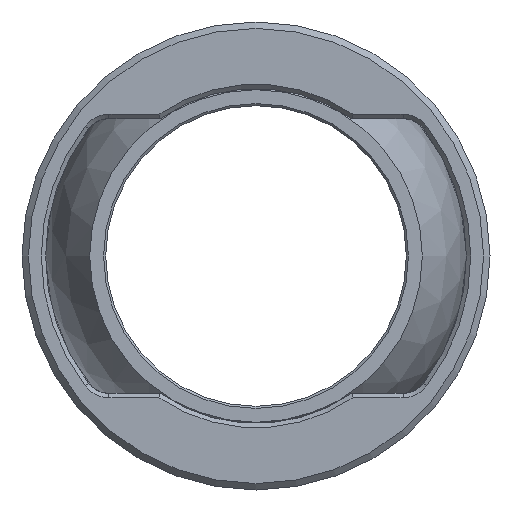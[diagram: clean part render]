
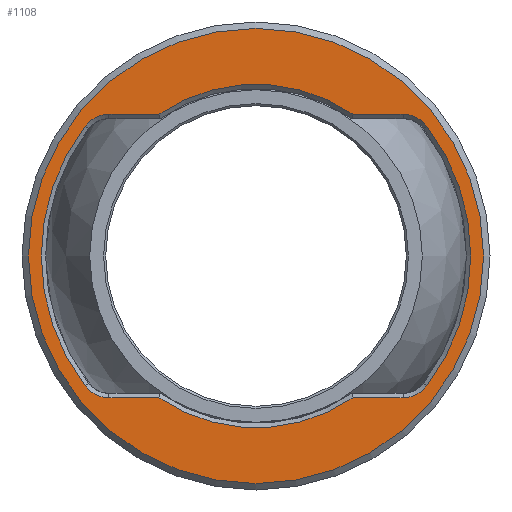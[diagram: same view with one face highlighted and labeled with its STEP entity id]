
A CAD part, front view. The second image highlights one B-rep face of the part: STEP entity #1108.
In plain terms, the highlighted planar face has unit normal (0, -1, 0).
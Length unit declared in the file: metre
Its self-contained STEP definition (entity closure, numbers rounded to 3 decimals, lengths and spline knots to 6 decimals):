
#1108=ADVANCED_FACE('',(#2602,#2603),#2604,.F.);
#2602=FACE_OUTER_BOUND('',#5125,.T.);
#2603=FACE_BOUND('',#5126,.T.);
#2604=PLANE('',#5127);
#5125=EDGE_LOOP('',(#8265));
#5126=EDGE_LOOP('',(#8266,#8267,#8268,#8269,#8270,#8271,#8272,#8273,#8274,#8275,#8276,#8277));
#5127=AXIS2_PLACEMENT_3D('',#8278,#8279,#8280);
#8265=ORIENTED_EDGE('',*,*,#9100,.F.);
#8266=ORIENTED_EDGE('',*,*,#9101,.T.);
#8267=ORIENTED_EDGE('',*,*,#9102,.T.);
#8268=ORIENTED_EDGE('',*,*,#9103,.T.);
#8269=ORIENTED_EDGE('',*,*,#9104,.T.);
#8270=ORIENTED_EDGE('',*,*,#9105,.T.);
#8271=ORIENTED_EDGE('',*,*,#9045,.T.);
#8272=ORIENTED_EDGE('',*,*,#9106,.T.);
#8273=ORIENTED_EDGE('',*,*,#9088,.T.);
#8274=ORIENTED_EDGE('',*,*,#9057,.T.);
#8275=ORIENTED_EDGE('',*,*,#9107,.T.);
#8276=ORIENTED_EDGE('',*,*,#9108,.T.);
#8277=ORIENTED_EDGE('',*,*,#9109,.T.);
#8278=CARTESIAN_POINT('',(0.554733,0.43348,0.0));
#8279=DIRECTION('',(0.0,1.0,0.0));
#8280=DIRECTION('',(0.0,0.0,1.0));
#9045=EDGE_CURVE('',#9171,#9176,#9178,.T.);
#9057=EDGE_CURVE('',#9199,#9197,#9200,.T.);
#9088=EDGE_CURVE('',#9249,#9199,#9250,.T.);
#9100=EDGE_CURVE('',#9267,#9267,#9268,.T.);
#9101=EDGE_CURVE('',#9269,#9270,#9271,.T.);
#9102=EDGE_CURVE('',#9270,#9272,#9273,.T.);
#9103=EDGE_CURVE('',#9272,#9274,#9275,.T.);
#9104=EDGE_CURVE('',#9274,#9276,#9277,.T.);
#9105=EDGE_CURVE('',#9276,#9171,#9278,.T.);
#9106=EDGE_CURVE('',#9176,#9249,#9279,.T.);
#9107=EDGE_CURVE('',#9197,#9280,#9281,.T.);
#9108=EDGE_CURVE('',#9280,#9282,#9283,.T.);
#9109=EDGE_CURVE('',#9282,#9269,#9284,.T.);
#9171=VERTEX_POINT('',#9358);
#9176=VERTEX_POINT('',#9364);
#9178=CIRCLE('',#9367,0.05);
#9197=VERTEX_POINT('',#9388);
#9199=VERTEX_POINT('',#9393);
#9200=CIRCLE('',#9394,0.04);
#9249=VERTEX_POINT('',#9506);
#9250=LINE('',#9507,#9508);
#9267=VERTEX_POINT('',#9529);
#9268=CIRCLE('',#9530,0.053);
#9269=VERTEX_POINT('',#9531);
#9270=VERTEX_POINT('',#9532);
#9271=CIRCLE('',#9533,0.007);
#9272=VERTEX_POINT('',#9534);
#9273=LINE('',#9535,#9536);
#9274=VERTEX_POINT('',#9537);
#9275=CIRCLE('',#9538,0.04);
#9276=VERTEX_POINT('',#9539);
#9277=LINE('',#9540,#9541);
#9278=CIRCLE('',#9542,0.007);
#9279=CIRCLE('',#9543,0.007);
#9280=VERTEX_POINT('',#9544);
#9281=LINE('',#9545,#9546);
#9282=VERTEX_POINT('',#9547);
#9283=CIRCLE('',#9548,0.007);
#9284=CIRCLE('',#9549,0.05);
#9358=CARTESIAN_POINT('',(0.634558,0.43348,0.030233));
#9364=CARTESIAN_POINT('',(0.634558,0.43348,-0.030233));
#9367=AXIS2_PLACEMENT_3D('',#9645,#9646,#9647);
#9388=CARTESIAN_POINT('',(0.572128,0.43348,-0.033));
#9393=CARTESIAN_POINT('',(0.617338,0.43348,-0.033));
#9394=AXIS2_PLACEMENT_3D('',#9665,#9666,#9667);
#9506=CARTESIAN_POINT('',(0.628982,0.43348,-0.033));
#9507=CARTESIAN_POINT('',(0.618733,0.43348,-0.033));
#9508=VECTOR('',#9714,1.0);
#9529=CARTESIAN_POINT('',(0.594733,0.43348,0.053));
#9530=AXIS2_PLACEMENT_3D('',#9728,#9729,#9730);
#9531=CARTESIAN_POINT('',(0.554908,0.43348,0.030233));
#9532=CARTESIAN_POINT('',(0.560484,0.43348,0.033));
#9533=AXIS2_PLACEMENT_3D('',#9731,#9732,#9733);
#9534=CARTESIAN_POINT('',(0.572128,0.43348,0.033));
#9535=CARTESIAN_POINT('',(0.570733,0.43348,0.033));
#9536=VECTOR('',#9734,1.0);
#9537=CARTESIAN_POINT('',(0.617338,0.43348,0.033));
#9538=AXIS2_PLACEMENT_3D('',#9735,#9736,#9737);
#9539=CARTESIAN_POINT('',(0.628982,0.43348,0.033));
#9540=CARTESIAN_POINT('',(0.628982,0.43348,0.033));
#9541=VECTOR('',#9738,1.0);
#9542=AXIS2_PLACEMENT_3D('',#9739,#9740,#9741);
#9543=AXIS2_PLACEMENT_3D('',#9742,#9743,#9744);
#9544=CARTESIAN_POINT('',(0.560484,0.43348,-0.033));
#9545=CARTESIAN_POINT('',(0.560484,0.43348,-0.033));
#9546=VECTOR('',#9745,1.0);
#9547=CARTESIAN_POINT('',(0.554908,0.43348,-0.030233));
#9548=AXIS2_PLACEMENT_3D('',#9746,#9747,#9748);
#9549=AXIS2_PLACEMENT_3D('',#9749,#9750,#9751);
#9645=CARTESIAN_POINT('',(0.594733,0.43348,0.));
#9646=DIRECTION('',(0.0,1.0,0.0));
#9647=DIRECTION('',(0.0,0.0,1.0));
#9665=CARTESIAN_POINT('',(0.594733,0.43348,0.0));
#9666=DIRECTION('',(0.0,1.0,0.0));
#9667=DIRECTION('',(0.0,0.0,1.0));
#9714=DIRECTION('',(-1.0,0.0,0.0));
#9728=CARTESIAN_POINT('',(0.594733,0.43348,0.0));
#9729=DIRECTION('',(0.0,1.0,0.0));
#9730=DIRECTION('',(0.0,0.0,1.0));
#9731=CARTESIAN_POINT('',(0.560484,0.43348,0.026));
#9732=DIRECTION('',(0.0,1.0,0.0));
#9733=DIRECTION('',(0.0,0.0,1.0));
#9734=DIRECTION('',(1.0,0.0,0.));
#9735=CARTESIAN_POINT('',(0.594733,0.43348,0.0));
#9736=DIRECTION('',(0.0,1.0,0.0));
#9737=DIRECTION('',(0.0,0.0,1.0));
#9738=DIRECTION('',(1.0,0.0,0.));
#9739=CARTESIAN_POINT('',(0.628982,0.43348,0.026));
#9740=DIRECTION('',(0.0,1.0,0.0));
#9741=DIRECTION('',(0.0,0.0,1.0));
#9742=CARTESIAN_POINT('',(0.628982,0.43348,-0.026));
#9743=DIRECTION('',(0.0,1.0,0.0));
#9744=DIRECTION('',(0.0,0.0,1.0));
#9745=DIRECTION('',(-1.0,0.0,0.0));
#9746=CARTESIAN_POINT('',(0.560484,0.43348,-0.026));
#9747=DIRECTION('',(0.0,1.0,0.0));
#9748=DIRECTION('',(0.0,0.0,1.0));
#9749=CARTESIAN_POINT('',(0.594733,0.43348,0.));
#9750=DIRECTION('',(0.0,1.0,0.0));
#9751=DIRECTION('',(0.0,0.0,1.0));
